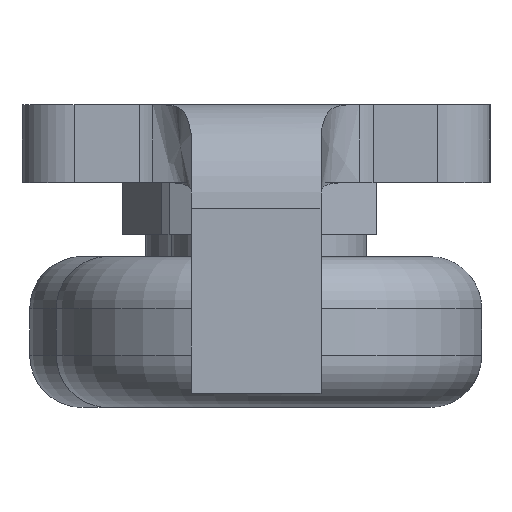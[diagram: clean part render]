
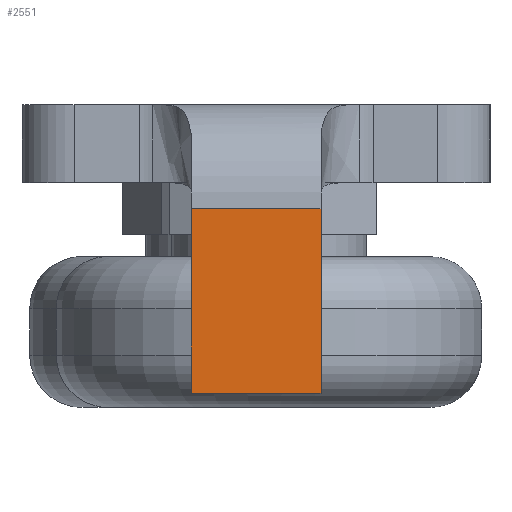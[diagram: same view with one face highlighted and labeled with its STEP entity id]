
A CAD part, left-side view. The second image highlights one B-rep face of the part: STEP entity #2551.
In plain terms, the highlighted planar face has unit normal (-1, 0, 0).
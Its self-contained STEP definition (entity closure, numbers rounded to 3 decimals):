
#228 = DIRECTION ( 'NONE',  ( 0., -1., 0. ) ) ;
#360 = VECTOR ( 'NONE', #2485, 1000. ) ;
#443 = CARTESIAN_POINT ( 'NONE',  ( -70., 2.5, -11.1 ) ) ;
#471 = VECTOR ( 'NONE', #2110, 1000. ) ;
#516 = ORIENTED_EDGE ( 'NONE', *, *, #679, .T. ) ;
#540 = EDGE_CURVE ( 'NONE', #3366, #864, #929, .T. ) ;
#620 = ORIENTED_EDGE ( 'NONE', *, *, #540, .F. ) ;
#679 = EDGE_CURVE ( 'NONE', #2379, #864, #2758, .T. ) ;
#733 = EDGE_LOOP ( 'NONE', ( #620, #1112, #1134, #516 ) ) ;
#785 = CARTESIAN_POINT ( 'NONE',  ( -70., 0., -11.1 ) ) ;
#864 = VERTEX_POINT ( 'NONE', #1144 ) ;
#929 = LINE ( 'NONE', #3566, #471 ) ;
#994 = CARTESIAN_POINT ( 'NONE',  ( -70., -2.5, 0. ) ) ;
#1021 = DIRECTION ( 'NONE',  ( 0., 0., 1. ) ) ;
#1086 = CARTESIAN_POINT ( 'NONE',  ( -70., 2.5, -11.1 ) ) ;
#1112 = ORIENTED_EDGE ( 'NONE', *, *, #3543, .F. ) ;
#1134 = ORIENTED_EDGE ( 'NONE', *, *, #2927, .T. ) ;
#1144 = CARTESIAN_POINT ( 'NONE',  ( -70., -2.5, -4. ) ) ;
#1190 = CARTESIAN_POINT ( 'NONE',  ( -70., 2.5, -4. ) ) ;
#1426 = AXIS2_PLACEMENT_3D ( 'NONE', #3276, #2541, #1938 ) ;
#1620 = LINE ( 'NONE', #443, #2634 ) ;
#1938 = DIRECTION ( 'NONE',  ( 0., 0., -1. ) ) ;
#2110 = DIRECTION ( 'NONE',  ( 0., -1., 0. ) ) ;
#2203 = PLANE ( 'NONE',  #1426 ) ;
#2379 = VERTEX_POINT ( 'NONE', #2546 ) ;
#2485 = DIRECTION ( 'NONE',  ( 0., 0., 1. ) ) ;
#2541 = DIRECTION ( 'NONE',  ( 1., 0., 0. ) ) ;
#2546 = CARTESIAN_POINT ( 'NONE',  ( -70., -2.5, -11.1 ) ) ;
#2551 = ADVANCED_FACE ( 'NONE', ( #3579 ), #2203, .F. ) ;
#2634 = VECTOR ( 'NONE', #1021, 1000. ) ;
#2758 = LINE ( 'NONE', #994, #360 ) ;
#2927 = EDGE_CURVE ( 'NONE', #2934, #2379, #3400, .T. ) ;
#2934 = VERTEX_POINT ( 'NONE', #1086 ) ;
#3276 = CARTESIAN_POINT ( 'NONE',  ( -70., 0., 0. ) ) ;
#3366 = VERTEX_POINT ( 'NONE', #1190 ) ;
#3400 = LINE ( 'NONE', #785, #3659 ) ;
#3543 = EDGE_CURVE ( 'NONE', #2934, #3366, #1620, .T. ) ;
#3566 = CARTESIAN_POINT ( 'NONE',  ( -70., -9., -4. ) ) ;
#3579 = FACE_OUTER_BOUND ( 'NONE', #733, .T. ) ;
#3659 = VECTOR ( 'NONE', #228, 1000. ) ;
